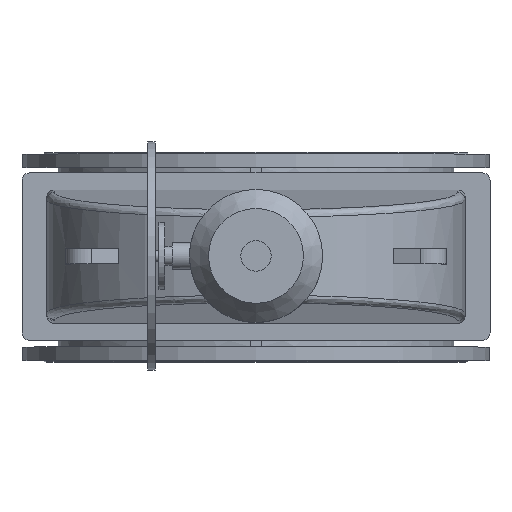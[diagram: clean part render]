
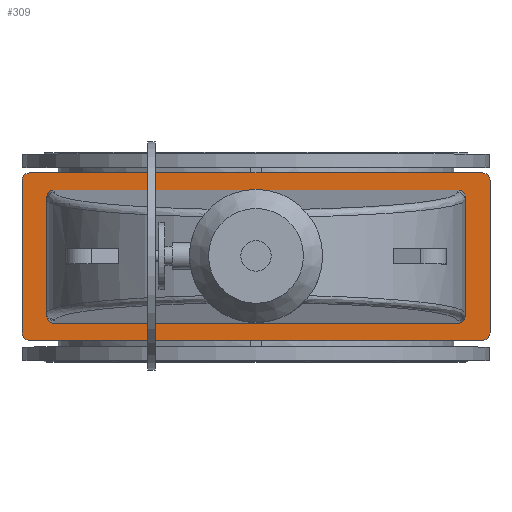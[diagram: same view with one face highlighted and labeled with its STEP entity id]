
A CAD part, top view. The second image highlights one B-rep face of the part: STEP entity #309.
In plain terms, the highlighted planar face has unit normal (0, 0, 1).
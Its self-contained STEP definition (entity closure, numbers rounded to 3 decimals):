
#309=ADVANCED_FACE('',(#3564,#3566),#3568,.T.);
#3564=FACE_BOUND('',#3565,.T.);
#3565=EDGE_LOOP('',(#7964,#7965,#7966,#7967,#7968,#7969,#7970,#7971));
#3566=FACE_BOUND('',#3567,.T.);
#3567=EDGE_LOOP('',(#7972,#7973,#7974,#7975,#7976,#7977,#7978,#7979));
#3568=PLANE('',#3569);
#3569=AXIS2_PLACEMENT_3D('',#3570,#3571,#3572);
#3570=CARTESIAN_POINT('',(0.,0.,1086.));
#3571=DIRECTION('',(0.,-0.,1.));
#3572=DIRECTION('',(0.,1.,0.));
#7964=ORIENTED_EDGE('',*,*,#9272,.F.);
#7965=ORIENTED_EDGE('',*,*,#9273,.T.);
#7966=ORIENTED_EDGE('',*,*,#9274,.F.);
#7967=ORIENTED_EDGE('',*,*,#9275,.T.);
#7968=ORIENTED_EDGE('',*,*,#9276,.F.);
#7969=ORIENTED_EDGE('',*,*,#9277,.T.);
#7970=ORIENTED_EDGE('',*,*,#9278,.F.);
#7971=ORIENTED_EDGE('',*,*,#9279,.T.);
#7972=ORIENTED_EDGE('',*,*,#9270,.F.);
#7973=ORIENTED_EDGE('',*,*,#9269,.F.);
#7974=ORIENTED_EDGE('',*,*,#9271,.F.);
#7975=ORIENTED_EDGE('',*,*,#9244,.F.);
#7976=ORIENTED_EDGE('',*,*,#9280,.F.);
#7977=ORIENTED_EDGE('',*,*,#9281,.F.);
#7978=ORIENTED_EDGE('',*,*,#9282,.F.);
#7979=ORIENTED_EDGE('',*,*,#9237,.F.);
#9237=EDGE_CURVE('',#9937,#9939,#9940,.T.);
#9244=EDGE_CURVE('',#9949,#9947,#9951,.T.);
#9269=EDGE_CURVE('',#9990,#9988,#9992,.T.);
#9270=EDGE_CURVE('',#9988,#9937,#9993,.F.);
#9271=EDGE_CURVE('',#9947,#9990,#9994,.T.);
#9272=EDGE_CURVE('',#9995,#9996,#9997,.F.);
#9273=EDGE_CURVE('',#9995,#9998,#9999,.T.);
#9274=EDGE_CURVE('',#10000,#9998,#10001,.F.);
#9275=EDGE_CURVE('',#10000,#10002,#10003,.T.);
#9276=EDGE_CURVE('',#10004,#10002,#10005,.F.);
#9277=EDGE_CURVE('',#10004,#10006,#10007,.T.);
#9278=EDGE_CURVE('',#10008,#10006,#10009,.F.);
#9279=EDGE_CURVE('',#10008,#9996,#10010,.T.);
#9280=EDGE_CURVE('',#10011,#9949,#10012,.F.);
#9281=EDGE_CURVE('',#10013,#10011,#10014,.T.);
#9282=EDGE_CURVE('',#9939,#10013,#10015,.T.);
#9937=VERTEX_POINT('',#11295);
#9939=VERTEX_POINT('',#11299);
#9940=LINE('',#11300,#11301);
#9947=VERTEX_POINT('',#11320);
#9949=VERTEX_POINT('',#11324);
#9951=LINE('',#11328,#11329);
#9988=VERTEX_POINT('',#11421);
#9990=VERTEX_POINT('',#11425);
#9992=LINE('',#11429,#11430);
#9993=(BOUNDED_CURVE()B_SPLINE_CURVE(3,
(#11432,#11433,#11434,#11435),
.UNSPECIFIED.,.F.,.F.)B_SPLINE_CURVE_WITH_KNOTS((4,4),
(0.,1.),
.UNSPECIFIED.)CURVE()GEOMETRIC_REPRESENTATION_ITEM()RATIONAL_B_SPLINE_CURVE((1.,
0.805,0.805,1.))REPRESENTATION_ITEM(''));
#9994=(BOUNDED_CURVE()B_SPLINE_CURVE(3,
(#11436,#11437,#11438,#11439),
.UNSPECIFIED.,.F.,.F.)B_SPLINE_CURVE_WITH_KNOTS((4,4),
(0.,1.),
.UNSPECIFIED.)CURVE()GEOMETRIC_REPRESENTATION_ITEM()RATIONAL_B_SPLINE_CURVE((1.,
0.805,0.805,1.))REPRESENTATION_ITEM(''));
#9995=VERTEX_POINT('',#11440);
#9996=VERTEX_POINT('',#11441);
#9997=CIRCLE('',#11442,20.);
#9998=VERTEX_POINT('',#11446);
#9999=LINE('',#11447,#11448);
#10000=VERTEX_POINT('',#11450);
#10001=CIRCLE('',#11451,20.);
#10002=VERTEX_POINT('',#11455);
#10003=LINE('',#11456,#11457);
#10004=VERTEX_POINT('',#11459);
#10005=CIRCLE('',#11460,20.);
#10006=VERTEX_POINT('',#11464);
#10007=LINE('',#11465,#11466);
#10008=VERTEX_POINT('',#11468);
#10009=CIRCLE('',#11469,20.);
#10010=LINE('',#11473,#11474);
#10011=VERTEX_POINT('',#11476);
#10012=(BOUNDED_CURVE()B_SPLINE_CURVE(3,
(#11477,#11478,#11479,#11480),
.UNSPECIFIED.,.F.,.F.)B_SPLINE_CURVE_WITH_KNOTS((4,4),
(0.,1.),
.UNSPECIFIED.)CURVE()GEOMETRIC_REPRESENTATION_ITEM()RATIONAL_B_SPLINE_CURVE((1.,
0.805,0.805,1.))REPRESENTATION_ITEM(''));
#10013=VERTEX_POINT('',#11481);
#10014=LINE('',#11482,#11483);
#10015=(BOUNDED_CURVE()B_SPLINE_CURVE(3,
(#11485,#11486,#11487,#11488),
.UNSPECIFIED.,.F.,.F.)B_SPLINE_CURVE_WITH_KNOTS((4,4),
(0.,1.),
.UNSPECIFIED.)CURVE()GEOMETRIC_REPRESENTATION_ITEM()RATIONAL_B_SPLINE_CURVE((1.,
0.805,0.805,1.))REPRESENTATION_ITEM(''));
#11295=CARTESIAN_POINT('',(550.,-154.924,1086.));
#11299=CARTESIAN_POINT('',(550.,154.924,1086.));
#11300=CARTESIAN_POINT('',(550.,-154.924,1086.));
#11301=VECTOR('',#11302,1.);
#11302=DIRECTION('',(0.,1.,0.));
#11320=CARTESIAN_POINT('',(-550.,-154.924,1086.));
#11324=CARTESIAN_POINT('',(-550.,154.924,1086.));
#11328=CARTESIAN_POINT('',(-550.,154.924,1086.));
#11329=VECTOR('',#11330,1.);
#11330=DIRECTION('',(0.,-1.,0.));
#11421=CARTESIAN_POINT('',(530.,-175.,1086.));
#11425=CARTESIAN_POINT('',(-530.,-175.,1086.));
#11429=CARTESIAN_POINT('',(-530.,-175.,1086.));
#11430=VECTOR('',#11431,1.);
#11431=DIRECTION('',(1.,0.,0.));
#11432=CARTESIAN_POINT('',(550.,-154.924,1086.));
#11433=CARTESIAN_POINT('',(550.,-166.684,1086.));
#11434=CARTESIAN_POINT('',(541.716,-175.,1086.));
#11435=CARTESIAN_POINT('',(530.,-175.,1086.));
#11436=CARTESIAN_POINT('',(-550.,-154.924,1086.));
#11437=CARTESIAN_POINT('',(-550.,-166.684,1086.));
#11438=CARTESIAN_POINT('',(-541.716,-175.,1086.));
#11439=CARTESIAN_POINT('',(-530.,-175.,1086.));
#11440=CARTESIAN_POINT('',(-595.,-220.,1086.));
#11441=CARTESIAN_POINT('',(-615.,-200.,1086.));
#11442=AXIS2_PLACEMENT_3D('',#11443,#11444,#11445);
#11443=CARTESIAN_POINT('',(-595.,-200.,1086.));
#11444=DIRECTION('',(0.,-0.,1.));
#11445=DIRECTION('',(-1.,0.,0.));
#11446=CARTESIAN_POINT('',(595.,-220.,1086.));
#11447=CARTESIAN_POINT('',(-595.,-220.,1086.));
#11448=VECTOR('',#11449,1.);
#11449=DIRECTION('',(1.,0.,0.));
#11450=CARTESIAN_POINT('',(615.,-200.,1086.));
#11451=AXIS2_PLACEMENT_3D('',#11452,#11453,#11454);
#11452=CARTESIAN_POINT('',(595.,-200.,1086.));
#11453=DIRECTION('',(0.,-0.,1.));
#11454=DIRECTION('',(0.,-1.,0.));
#11455=CARTESIAN_POINT('',(615.,200.,1086.));
#11456=CARTESIAN_POINT('',(615.,-200.,1086.));
#11457=VECTOR('',#11458,1.);
#11458=DIRECTION('',(0.,1.,0.));
#11459=CARTESIAN_POINT('',(595.,220.,1086.));
#11460=AXIS2_PLACEMENT_3D('',#11461,#11462,#11463);
#11461=CARTESIAN_POINT('',(595.,200.,1086.));
#11462=DIRECTION('',(0.,-0.,1.));
#11463=DIRECTION('',(1.,0.,0.));
#11464=CARTESIAN_POINT('',(-595.,220.,1086.));
#11465=CARTESIAN_POINT('',(595.,220.,1086.));
#11466=VECTOR('',#11467,1.);
#11467=DIRECTION('',(-1.,0.,0.));
#11468=CARTESIAN_POINT('',(-615.,200.,1086.));
#11469=AXIS2_PLACEMENT_3D('',#11470,#11471,#11472);
#11470=CARTESIAN_POINT('',(-595.,200.,1086.));
#11471=DIRECTION('',(0.,-0.,1.));
#11472=DIRECTION('',(0.,1.,0.));
#11473=CARTESIAN_POINT('',(-615.,200.,1086.));
#11474=VECTOR('',#11475,1.);
#11475=DIRECTION('',(0.,-1.,0.));
#11476=CARTESIAN_POINT('',(-530.,175.,1086.));
#11477=CARTESIAN_POINT('',(-550.,154.924,1086.));
#11478=CARTESIAN_POINT('',(-550.,166.684,1086.));
#11479=CARTESIAN_POINT('',(-541.716,175.,1086.));
#11480=CARTESIAN_POINT('',(-530.,175.,1086.));
#11481=CARTESIAN_POINT('',(530.,175.,1086.));
#11482=CARTESIAN_POINT('',(530.,175.,1086.));
#11483=VECTOR('',#11484,1.);
#11484=DIRECTION('',(-1.,0.,0.));
#11485=CARTESIAN_POINT('',(550.,154.924,1086.));
#11486=CARTESIAN_POINT('',(550.,166.684,1086.));
#11487=CARTESIAN_POINT('',(541.716,175.,1086.));
#11488=CARTESIAN_POINT('',(530.,175.,1086.));
